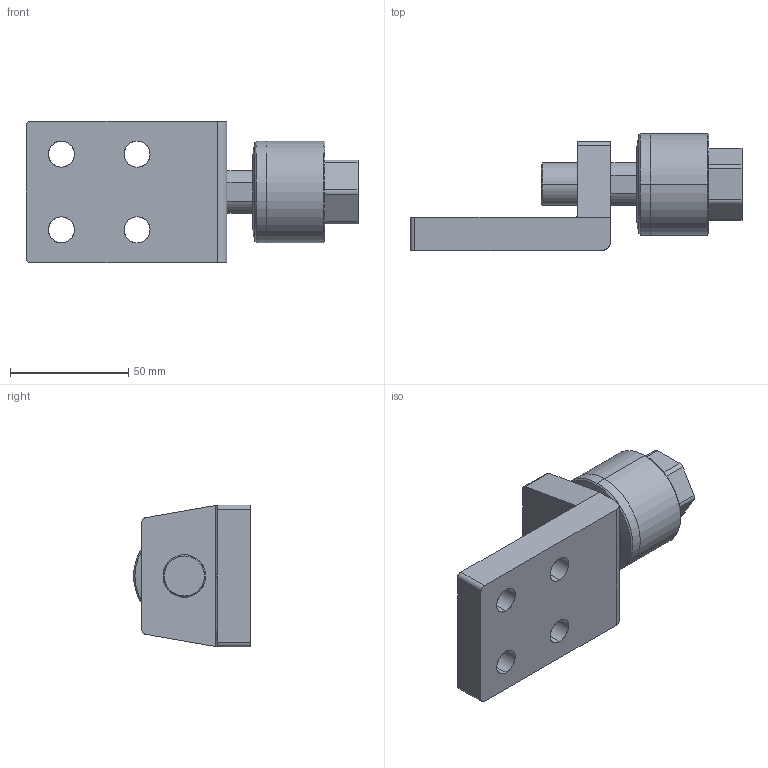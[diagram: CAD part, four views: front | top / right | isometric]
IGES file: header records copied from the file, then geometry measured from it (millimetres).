
Start section: SolidWorks IGES file using analytic representation for surfaces
Global section: file name: C:\Users\Toshiba\Desktop\FCM18A-1.5-L.IGS; native system: SolidWorks 2014; preprocessor: SolidWorks 2014; author: Toshiba; date: 160414.095906; units: millimetre
Bounding box: 140.5 x 49.5 x 60 mm (x, y, z)
Surface area: 31175.1 mm2 (no closed solid volume)
Topology: 0 solids, 0 shells, 72 faces, 1016 edges, 1014 vertices
Faces by surface type: revolution 44, bspline 28
